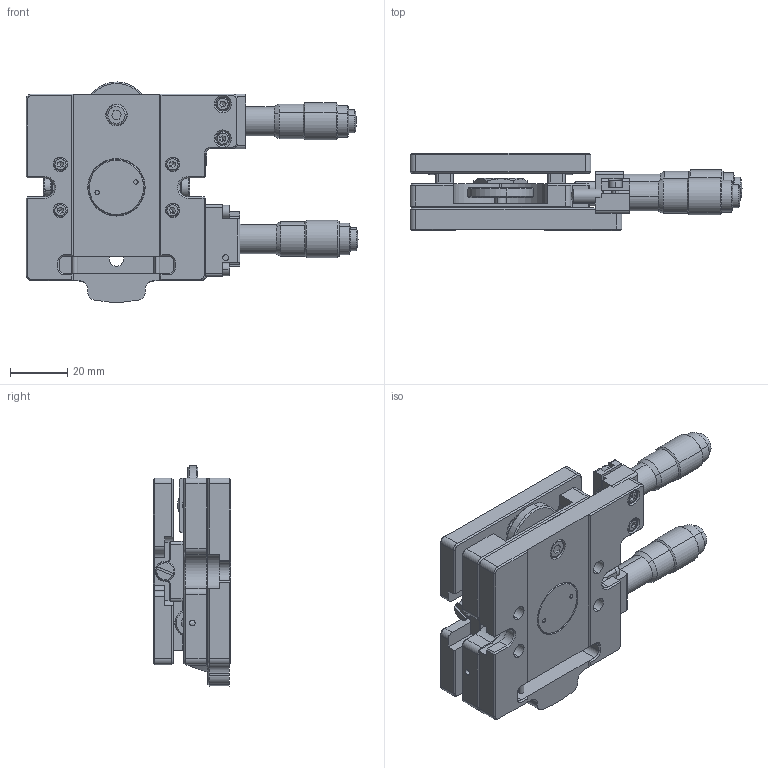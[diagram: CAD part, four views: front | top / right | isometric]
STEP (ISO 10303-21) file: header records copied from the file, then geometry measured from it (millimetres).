
FILE_DESCRIPTION (( 'STEP AP203' ), '1' );
FILE_NAME ('PT-QX1201M.STEP', '2025-07-31T01:25:11', ( '' ), ( '' ), 'SwSTEP 2.0', 'SolidWorks 2023', '' );
FILE_SCHEMA (( 'CONFIG_CONTROL_DESIGN' ));
Length unit declared in the file: millimetre
Products named in the file (1): PT-QX1201M
Bounding box: 115.59 x 27 x 76.62 mm (x, y, z)
Volume: 93062.9 mm3; surface area: 50517.3 mm2
Topology: 30 solids, 30 shells, 1299 faces, 3148 edges, 1956 vertices
Faces by surface type: plane 658, cylinder 374, cone 201, bspline 66
Entity records: 39946 total; most frequent: CARTESIAN_POINT 9166, DIRECTION 6509, ORIENTED_EDGE 6220, EDGE_CURVE 3110, AXIS2_PLACEMENT_3D 2299, VERTEX_POINT 1956, LINE 1911, VECTOR 1911
